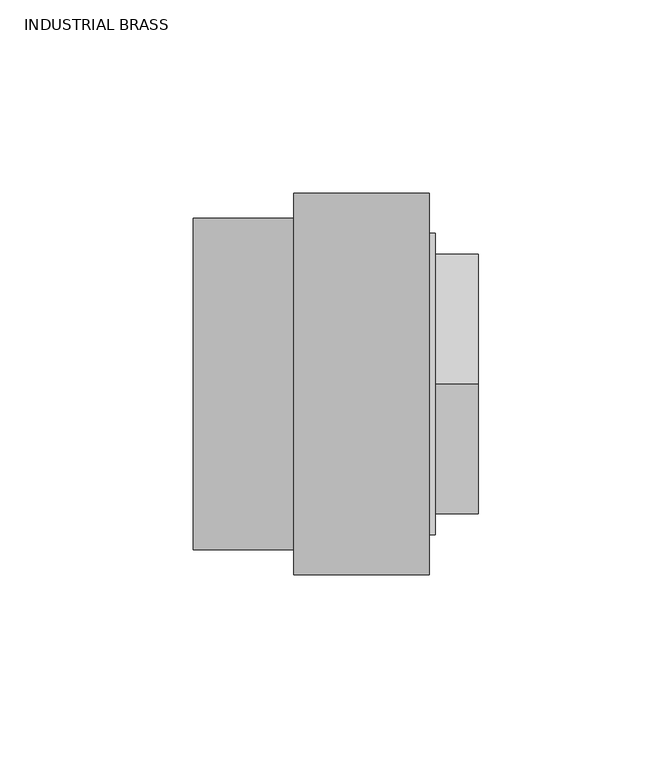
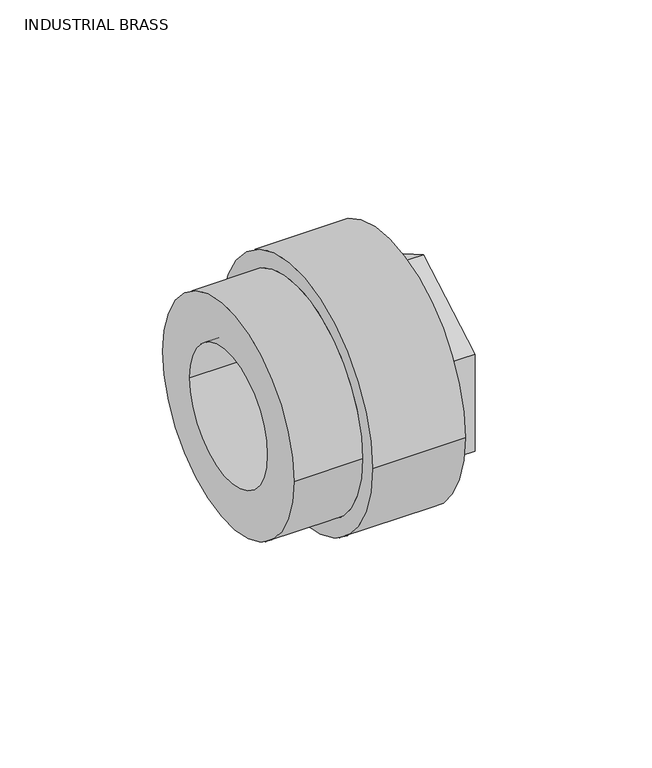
"""IFC4 building model written with IfcOpenShell, lengths in millimetres: pipe fitting geometry, Aquatherm - Flow Meter Well : INDUSTRIAL BRASS."""

import ifcopenshell
import ifcopenshell.guid

model = None  # the IFC model being written
_history = None  # IfcOwnerHistory: only IFC2X3 demands one
_inside = {}  # id of a spatial element -> (the spatial element, [elements in it])
_under = {}  # id of a project, library or spatial element -> (it, [spatial elements below it])
_declared = {}  # id of a project -> (the project, [libraries it declares])
_typed = {}  # id of a type object -> (the type object, [elements of that type])
_made_of = {}  # id of a material, layer set ... -> (it, [elements and type objects made of it])


def new_model(schema):
    """Start an empty IFC model of exactly this schema.

    Asked for "IFC4X3", IfcOpenShell would pick the latest addendum, in which some entities
    have other attributes; the version numbers below select the first issue.
    IFC2X3 requires an IfcOwnerHistory on every rooted entity: one is made here for all.
    """
    global model, _history
    if schema == "IFC4X3":
        model = ifcopenshell.file(schema_version=(4, 3, 0, 0))
    else:
        model = ifcopenshell.file(schema=schema)
    _inside.clear()
    _under.clear()
    _declared.clear()
    _typed.clear()
    _made_of.clear()
    _history = None
    if model.schema == "IFC2X3":
        org = make("IfcOrganization", Name="unknown")
        user = make(
            "IfcPersonAndOrganization",
            ThePerson=make("IfcPerson", FamilyName="unknown"),
            TheOrganization=org,
        )
        app = make(
            "IfcApplication",
            ApplicationDeveloper=org,
            Version="unknown",
            ApplicationFullName="unknown",
            ApplicationIdentifier="unknown",
        )
        _history = make(
            "IfcOwnerHistory",
            OwningUser=user,
            OwningApplication=app,
            ChangeAction="ADDED",
            CreationDate=0,
        )
    return model


def make(cls, **values):
    """One entity of the class cls with the attributes given. An attribute that is None is left unset."""
    return model.create_entity(
        cls, **{name: value for name, value in values.items() if value is not None}
    )


def rooted(cls, **values):
    """An entity with a GlobalId (a new one), such as an element, a storey or a relation."""
    return make(cls, GlobalId=ifcopenshell.guid.new(), OwnerHistory=_history, **values)


def si_unit(unit_type, name, prefix=None):
    """IfcSIUnit, for example si_unit("LENGTHUNIT", "METRE", prefix="MILLI")."""
    return make("IfcSIUnit", UnitType=unit_type, Prefix=prefix, Name=name)


def assignment(units):
    """IfcUnitAssignment: the units of a project."""
    return None if units is None else make("IfcUnitAssignment", Units=units)


def point(xyz):
    """IfcCartesianPoint."""
    return None if xyz is None else make("IfcCartesianPoint", Coordinates=xyz)


def direction(xyz):
    """IfcDirection."""
    return None if xyz is None else make("IfcDirection", DirectionRatios=xyz)


def frame(location, z_axis=None, x_axis=None):
    """IfcAxis2Placement3D, a coordinate frame: its origin and axes. An axis left out is left unset."""
    return make(
        "IfcAxis2Placement3D",
        Location=point(location),
        Axis=direction(z_axis),
        RefDirection=direction(x_axis),
    )


def origin():
    """The frame at (0, 0, 0) with its axes left unset."""
    return frame((0.0, 0.0, 0.0))


def place(relative_to, where):
    """IfcLocalPlacement: puts the frame where relative to a parent placement (None: the world)."""
    return make(
        "IfcLocalPlacement", PlacementRelTo=relative_to, RelativePlacement=where
    )


def context(
    kind, dimensions, precision=None, world=None, true_north=None, identifier=None
):
    """IfcGeometricRepresentationContext, for example the 3D "Model" context."""
    return make(
        "IfcGeometricRepresentationContext",
        ContextIdentifier=identifier,
        ContextType=kind,
        CoordinateSpaceDimension=dimensions,
        Precision=precision,
        WorldCoordinateSystem=world,
        TrueNorth=true_north,
    )


def project(units=None, contexts=None):
    """IfcProject with its units and contexts."""
    return rooted(
        "IfcProject",
        Name="project",
        RepresentationContexts=contexts,
        UnitsInContext=assignment(units),
    )


def spatial(cls, under=None, at=None, **own):
    """A site, building, storey or space (cls), placed at a placement, below another one or the project."""
    s = rooted(cls, ObjectPlacement=at, **own)
    if under is not None:
        _under.setdefault(under.id(), (under, []))[1].append(s)
    return s


def polyline(points):
    """IfcPolyline through the points."""
    return make("IfcPolyline", Points=[point(p) for p in points])


def circle_curve(where, radius):
    """IfcCircle in the frame where."""
    return make("IfcCircle", Position=where, Radius=radius)


def shape(context_of_items, identifier, shape_type, items):
    """IfcShapeRepresentation: the items that make up one representation, for example the "Body"."""
    return make(
        "IfcShapeRepresentation",
        ContextOfItems=context_of_items,
        RepresentationIdentifier=identifier,
        RepresentationType=shape_type,
        Items=items,
    )


def source(mapping_origin, context_of_items, identifier, shape_type, items):
    """IfcRepresentationMap: a shape defined once, which mapped items show again and again."""
    return make(
        "IfcRepresentationMap",
        MappingOrigin=mapping_origin,
        MappedRepresentation=shape(context_of_items, identifier, shape_type, items),
    )


def transform(
    local_origin,
    x_axis=None,
    y_axis=None,
    z_axis=None,
    scale=None,
    scale2=None,
    scale3=None,
    uniform=True,
):
    """IfcCartesianTransformationOperator3D, or its non-uniform kind. x_axis, y_axis, z_axis: its Axis1, 2, 3."""
    if uniform:
        return make(
            "IfcCartesianTransformationOperator3D",
            Axis1=direction(x_axis),
            Axis2=direction(y_axis),
            LocalOrigin=point(local_origin),
            Scale=scale,
            Axis3=direction(z_axis),
        )
    return make(
        "IfcCartesianTransformationOperator3DnonUniform",
        Axis1=direction(x_axis),
        Axis2=direction(y_axis),
        LocalOrigin=point(local_origin),
        Scale=scale,
        Axis3=direction(z_axis),
        Scale2=scale2,
        Scale3=scale3,
    )


def mapped(mapping_source, mapping_target):
    """IfcMappedItem: shows the shape of a source again, moved by a transform."""
    return make(
        "IfcMappedItem", MappingSource=mapping_source, MappingTarget=mapping_target
    )


def made_of(thing, what):
    """Note that an element or type object is made of a material, layer set ...; save() writes the relation."""
    if what is not None:
        _made_of.setdefault(what.id(), (what, []))[1].append(thing)
    return thing


def element(
    cls,
    number,
    at=None,
    inside=None,
    cuts=None,
    type_object=None,
    material=None,
    context=None,
    identifier="Body",
    shape_type=None,
    held_by="IfcProductDefinitionShape",
    body=None,
    shapes=None,
    **own,
):
    """One element of the class cls, such as IfcWall. Its Tag is "e" and its number.

    at: its placement. inside: the storey or other place that contains it. cuts: it is an
    opening in that element (IfcRelVoidsElement). A single representation is given by context,
    identifier, shape_type and body (its items); several are given by shapes. held_by: the class
    of the entity that holds the representations. save() writes the other relations.
    """
    e = rooted(cls, Tag="e%d" % number, ObjectPlacement=at, **own)
    if body is not None:
        shapes = [shape(context, identifier, shape_type, body)]
    if shapes is not None:
        e.Representation = make(held_by, Representations=shapes)
    if inside is not None:
        _inside.setdefault(inside.id(), (inside, []))[1].append(e)
    if cuts is not None:
        rooted(
            "IfcRelVoidsElement", RelatingBuildingElement=cuts, RelatedOpeningElement=e
        )
    if type_object is not None:
        _typed.setdefault(type_object.id(), (type_object, []))[1].append(e)
    return made_of(e, material)


def aggregate(whole, parts):
    """IfcRelAggregates: a whole, such as a stair, and the parts it consists of."""
    return rooted("IfcRelAggregates", RelatingObject=whole, RelatedObjects=parts)


def save(model, path):
    """Write the relations noted so far, then the file.

    IfcRelAggregates (storeys below a building ...), IfcRelContainedInSpatialStructure (elements
    in a storey), IfcRelDefinesByType, IfcRelAssociatesMaterial and IfcRelDeclares: one each for
    every whole, place, type object, material and project.
    """
    for whole, parts in _under.values():
        aggregate(whole, parts)
    for where, things in _inside.values():
        rooted(
            "IfcRelContainedInSpatialStructure",
            RelatedElements=things,
            RelatingStructure=where,
        )
    for kind, things in _typed.values():
        rooted("IfcRelDefinesByType", RelatedObjects=things, RelatingType=kind)
    for what, things in _made_of.values():
        rooted("IfcRelAssociatesMaterial", RelatedObjects=things, RelatingMaterial=what)
    for by, libraries in _declared.values():
        rooted("IfcRelDeclares", RelatingContext=by, RelatedDefinitions=libraries)
    model.write(path)


def plane_surface(at):
    """IfcPlane: the flat surface through the origin of the frame at, square to its z axis."""
    return make("IfcPlane", Position=at)


def cylinder_surface(at, radius):
    """IfcCylindricalSurface: all points at the distance radius from the z axis of the frame at."""
    return make("IfcCylindricalSurface", Position=at, Radius=radius)


def revolved_surface(curve, axis_point, axis_direction):
    """IfcSurfaceOfRevolution: the curve turned about the line through axis_point along axis_direction."""
    return make(
        "IfcSurfaceOfRevolution",
        SweptCurve=make("IfcArbitraryOpenProfileDef", ProfileType="CURVE", Curve=curve),
        AxisPosition=make("IfcAxis1Placement", Location=point(axis_point), Axis=direction(axis_direction)),
    )


def advanced_brep(points, edges, surfaces, faces):
    """IfcAdvancedBrep: a solid bounded by faces that lie on surfaces and meet in shared edges.

    An edge is (start, end): straight between two places in points (the first is 0);
    or (start, end, curve); or (start, end, curve, False) where it runs against its curve.
    A face is (place in surfaces, loops), or (place, loops, False) where it looks against
    its surface's normal. A loop lists edges by number (the first is 1), with a minus sign
    where the edge is run from its end to its start. The first loop is the outer one.
    """
    corners = [point(p) for p in points]
    vertices = [make("IfcVertexPoint", VertexGeometry=c) for c in corners]
    made = []
    for start, end, *more in edges:
        made.append(
            make(
                "IfcEdgeCurve",
                EdgeStart=vertices[start],
                EdgeEnd=vertices[end],
                EdgeGeometry=more[0] if more else make("IfcPolyline", Points=[corners[start], corners[end]]),
                SameSense=more[1] if len(more) > 1 else True,
            )
        )
    hull = []
    for where, loops, *sense in faces:
        bounds = []
        for j, loop in enumerate(loops):
            ring = [make("IfcOrientedEdge", EdgeElement=made[abs(k) - 1], Orientation=k > 0) for k in loop]
            bounds.append(
                make(
                    "IfcFaceOuterBound" if j == 0 else "IfcFaceBound",
                    Bound=make("IfcEdgeLoop", EdgeList=ring),
                    Orientation=True,
                )
            )
        hull.append(make("IfcAdvancedFace", Bounds=bounds, FaceSurface=surfaces[where], SameSense=sense[0] if sense else True))
    return make("IfcAdvancedBrep", Outer=make("IfcClosedShell", CfsFaces=hull))


def industrial_brass_2da65b36(model_context):
    return source(origin(), model_context, "Body", "AdvancedBrep", [
        advanced_brep(
        [(36.1315, 28.575, 0.0), (36.1315, -28.575, 0.0), (57.3643125, -28.575, 0.0), (57.3643125, 28.575, 0.0), (36.1315, 29.36875, 0.0), (36.1315, -29.36875, 0.0), (32.9565, 29.36875, 0.0), (32.9565, -29.36875, 0.0), (32.9565, 25.4, 0.0), (32.9565, -25.4, 0.0), (29.7815, 25.4, 0.0), (29.7815, -25.4, 0.0), (29.7815, 40.64, 0.0), (29.7815, -40.64, 0.0), (47.244, 40.64, 0.0), (47.244, -40.64, 0.0), (59.944, 29.36875, 0.0), (59.944, -29.36875, 0.0), (59.944, -33.528, 0.0), (59.944, -33.528, -19.3573998), (59.944, 0.0, -38.7147997), (59.944, 33.528, -19.3573998), (59.944, 33.528, 0.0), (59.944, 33.528, 19.3573998), (59.944, 0.0, 38.7147997), (59.944, -33.528, 19.3573998), (47.244, 38.989, 0.0), (47.244, -38.989, 0.0), (48.8315, 38.989, 0.0), (48.8315, -38.989, 0.0), (48.8315, 0.0, -38.7147997), (48.8315, -33.528, -19.3573998), (48.8315, -33.528, 19.3573998), (48.8315, 0.0, 38.7147997), (48.8315, 33.528, 19.3573998), (48.8315, 33.528, -19.3573998)],
        [
            (0, 1, circle_curve(frame((36.1315, 0.0, 0.0), z_axis=(-1.0, 0.0, 0.0), x_axis=(0.0, -1.0, 0.0)), 28.575)),
            (1, 2),
            (2, 3, circle_curve(frame((57.3643125, 0.0, 0.0), z_axis=(1.0, 0.0, 0.0), x_axis=(0.0, -1.0, 0.0)), 28.575)),
            (3, 0),
            (1, 0, circle_curve(frame((36.1315, 0.0, 0.0), z_axis=(-1.0, 0.0, 0.0), x_axis=(0.0, -1.0, 0.0)), 28.575)),
            (3, 2, circle_curve(frame((57.3643125, 0.0, 0.0), z_axis=(1.0, 0.0, 0.0), x_axis=(0.0, -1.0, 0.0)), 28.575)),
            (0, 4),
            (4, 5, circle_curve(frame((36.1315, 0.0, 0.0), z_axis=(-1.0, 0.0, 0.0), x_axis=(0.0, -1.0, 0.0)), 29.36875)),
            (5, 1),
            (5, 4, circle_curve(frame((36.1315, 0.0, 0.0), z_axis=(-1.0, 0.0, 0.0), x_axis=(0.0, -1.0, 0.0)), 29.36875)),
            (4, 6),
            (6, 7, circle_curve(frame((32.9565, 0.0, 0.0), z_axis=(-1.0, 0.0, 0.0), x_axis=(0.0, -1.0, 0.0)), 29.36875)),
            (7, 5),
            (7, 6, circle_curve(frame((32.9565, 0.0, 0.0), z_axis=(-1.0, 0.0, 0.0), x_axis=(0.0, -1.0, 0.0)), 29.36875)),
            (6, 8),
            (8, 9, circle_curve(frame((32.9565, 0.0, 0.0), z_axis=(-1.0, 0.0, 0.0), x_axis=(0.0, -1.0, 0.0)), 25.4)),
            (9, 7),
            (9, 8, circle_curve(frame((32.9565, 0.0, 0.0), z_axis=(-1.0, 0.0, 0.0), x_axis=(0.0, -1.0, 0.0)), 25.4)),
            (8, 10),
            (10, 11, circle_curve(frame((29.7815, 0.0, 0.0), z_axis=(-1.0, 0.0, 0.0), x_axis=(0.0, -1.0, 0.0)), 25.4)),
            (11, 9),
            (11, 10, circle_curve(frame((29.7815, 0.0, 0.0), z_axis=(-1.0, 0.0, 0.0), x_axis=(0.0, -1.0, 0.0)), 25.4)),
            (10, 12),
            (12, 13, circle_curve(frame((29.7815, 0.0, 0.0), z_axis=(-1.0, 0.0, 0.0), x_axis=(0.0, -1.0, 0.0)), 40.64)),
            (13, 11),
            (13, 12, circle_curve(frame((29.7815, 0.0, 0.0), z_axis=(-1.0, 0.0, 0.0), x_axis=(0.0, -1.0, 0.0)), 40.64)),
            (12, 14),
            (14, 15, circle_curve(frame((47.244, 0.0, 0.0), z_axis=(-1.0, 0.0, 0.0), x_axis=(0.0, -1.0, 0.0)), 40.64)),
            (15, 13),
            (15, 14, circle_curve(frame((47.244, 0.0, 0.0), z_axis=(-1.0, 0.0, 0.0), x_axis=(0.0, -1.0, 0.0)), 40.64)),
            (16, 17, circle_curve(frame((59.944, 0.0, 0.0), z_axis=(-1.0, 0.0, 0.0), x_axis=(0.0, -1.0, 0.0)), 29.36875)),
            (17, 18),
            (18, 19),
            (19, 20),
            (20, 21),
            (21, 22),
            (22, 16),
            (17, 16, circle_curve(frame((59.944, 0.0, 0.0), z_axis=(-1.0, 0.0, 0.0), x_axis=(0.0, -1.0, 0.0)), 29.36875)),
            (22, 23),
            (23, 24),
            (24, 25),
            (25, 18),
            (2, 17),
            (16, 3),
            (14, 26),
            (26, 27, circle_curve(frame((47.244, 0.0, 0.0), z_axis=(-1.0, 0.0, 0.0), x_axis=(0.0, -1.0, 0.0)), 38.989)),
            (27, 15),
            (27, 26, circle_curve(frame((47.244, 0.0, 0.0), z_axis=(-1.0, 0.0, 0.0), x_axis=(0.0, -1.0, 0.0)), 38.989)),
            (26, 28),
            (28, 29, circle_curve(frame((48.8315, 0.0, 0.0), z_axis=(-1.0, 0.0, 0.0), x_axis=(0.0, -1.0, 0.0)), 38.989)),
            (29, 27),
            (29, 28, circle_curve(frame((48.8315, 0.0, 0.0), z_axis=(-1.0, 0.0, 0.0), x_axis=(0.0, -1.0, 0.0)), 38.989)),
            (30, 31),
            (31, 32),
            (32, 33),
            (33, 34),
            (34, 35),
            (35, 30),
            (35, 21),
            (20, 30),
            (34, 23),
            (33, 24),
            (32, 25),
            (31, 19),
        ],
        [
            revolved_surface(polyline([(57.3643125, -28.575, 0.0), (36.1315, -28.575, 0.0)]), (61.7772251, 0.0, 0.0), (1.0, 0.0, 0.0)),
            plane_surface(frame((36.1315, 0.0, 0.0), z_axis=(-1.0, 0.0, 0.0), x_axis=(0.0, -1.0, 0.0))),
            revolved_surface(polyline([(36.1315, -29.36875, 0.0), (32.9565, -29.36875, 0.0)]), (61.7772251, 0.0, 0.0), (1.0, 0.0, 0.0)),
            plane_surface(frame((32.9565, 0.0, 0.0), z_axis=(1.0, 0.0, 0.0), x_axis=(0.0, -1.0, 0.0))),
            revolved_surface(polyline([(32.9565, -25.4, 0.0), (29.7815, -25.4, 0.0)]), (61.7772251, 0.0, 0.0), (1.0, 0.0, 0.0)),
            plane_surface(frame((29.7815, 0.0, 0.0), z_axis=(-1.0, 0.0, 0.0), x_axis=(0.0, -1.0, 0.0))),
            cylinder_surface(frame((61.7772251, 0.0, 0.0), z_axis=(1.0, 0.0, 0.0), x_axis=(0.0, -1.0, 0.0)), 40.64),
            plane_surface(frame((59.944, 0.0, 0.0), z_axis=(1.0, 0.0, 0.0), x_axis=(0.0, -1.0, 0.0))),
            revolved_surface(polyline([(59.944, -29.36875, 0.0), (57.3643125, -28.575, 0.0)]), (61.7772251, 0.0, 0.0), (1.0, 0.0, 0.0)),
            plane_surface(frame((47.244, 0.0, 0.0), z_axis=(1.0, 0.0, 0.0), x_axis=(0.0, -1.0, 0.0))),
            cylinder_surface(frame((61.7772251, 0.0, 0.0), z_axis=(1.0, 0.0, 0.0), x_axis=(0.0, -1.0, 0.0)), 38.989),
            plane_surface(frame((48.8315, 33.528, -19.3573998), z_axis=(1.0, 0.0, 0.0), x_axis=(0.0, 0.8660254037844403, 0.49999999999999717))),
            plane_surface(frame((48.8315, 0.0, -38.7147997), z_axis=(0.0, 0.49999999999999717, -0.8660254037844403), x_axis=(1.0, 0.0, 0.0))),
            plane_surface(frame((48.8315, 33.528, -19.3573998), z_axis=(0.0, 1.0, 0.0), x_axis=(1.0, 0.0, 0.0))),
            plane_surface(frame((48.8315, 33.528, 19.3573998), z_axis=(0.0, 0.5000000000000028, 0.8660254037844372), x_axis=(1.0, 0.0, 0.0))),
            plane_surface(frame((48.8315, 0.0, 38.7147997), z_axis=(0.0, -0.49999999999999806, 0.8660254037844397), x_axis=(1.0, 0.0, 0.0))),
            plane_surface(frame((48.8315, -33.528, 19.3573998), z_axis=(0.0, -1.0, 0.0), x_axis=(1.0, 0.0, 0.0))),
            plane_surface(frame((48.8315, -33.528, -19.3573998), z_axis=(0.0, -0.5000000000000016, -0.8660254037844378), x_axis=(1.0, 0.0, 0.0))),
        ],
        [
            (0, [[1, 2, 3, 4]]),
            (0, [[-2, 5, -4, 6]]),
            (1, [[-1, 7, 8, 9]]),
            (1, [[-5, -9, 10, -7]]),
            (2, [[-8, 11, 12, 13]]),
            (2, [[-10, -13, 14, -11]]),
            (3, [[-12, 15, 16, 17]]),
            (3, [[-14, -17, 18, -15]]),
            (4, [[-16, 19, 20, 21]]),
            (4, [[-18, -21, 22, -19]]),
            (5, [[-20, 23, 24, 25]]),
            (5, [[-22, -25, 26, -23]]),
            (6, [[-24, 27, 28, 29]]),
            (6, [[-26, -29, 30, -27]]),
            (7, [[31, 32, 33, 34, 35, 36, 37]]),
            (7, [[38, -37, 39, 40, 41, 42, -32]]),
            (8, [[-3, 43, -31, 44]]),
            (8, [[-6, -44, -38, -43]]),
            (9, [[-28, 45, 46, 47]]),
            (9, [[-30, -47, 48, -45]]),
            (10, [[-46, 49, 50, 51]]),
            (10, [[-48, -51, 52, -49]]),
            (11, [[-50, -52], [53, 54, 55, 56, 57, 58]]),
            (12, [[-58, 59, -35, 60]]),
            (13, [[-57, 61, -39, -36, -59]]),
            (14, [[-56, 62, -40, -61]]),
            (15, [[-55, 63, -41, -62]]),
            (16, [[-54, 64, -33, -42, -63]]),
            (17, [[-53, -60, -34, -64]]),
        ],
    ),
        advanced_brep(
        [(-13.7297297, 42.8625, 0.0), (-13.7297297, -42.8625, 0.0), (-13.7297297, 25.4, 0.0), (-13.7297297, -25.4, 0.0), (29.7815, 40.64, 0.0), (29.7815, -40.64, 0.0), (29.7815, 25.4, 0.0), (29.7815, -25.4, 0.0), (0.0, 42.8625, 0.0), (12.192, 42.8625, 0.0), (12.192, -42.8625, 0.0), (0.0, -42.8625, 0.0), (47.244, 49.276, 0.0), (47.244, -49.276, 0.0), (47.244, 40.64, 0.0), (47.244, -40.64, 0.0), (12.192, 49.276, 0.0), (12.192, -49.276, 0.0)],
        [
            (0, 1, circle_curve(frame((-13.7297297, 0.0, 0.0), z_axis=(-1.0, 0.0, 0.0), x_axis=(0.0, -1.0, 0.0)), 42.8625)),
            (1, 0, circle_curve(frame((-13.7297297, 0.0, 0.0), z_axis=(-1.0, 0.0, 0.0), x_axis=(0.0, -1.0, 0.0)), 42.8625)),
            (2, 3, circle_curve(frame((-13.7297297, 0.0, 0.0), z_axis=(1.0, 0.0, 0.0), x_axis=(0.0, -1.0, 0.0)), 25.4)),
            (3, 2, circle_curve(frame((-13.7297297, 0.0, 0.0), z_axis=(1.0, 0.0, 0.0), x_axis=(0.0, -1.0, 0.0)), 25.4)),
            (4, 5, circle_curve(frame((29.7815, 0.0, 0.0), z_axis=(1.0, 0.0, 0.0), x_axis=(0.0, -1.0, 0.0)), 40.64)),
            (5, 4, circle_curve(frame((29.7815, 0.0, 0.0), z_axis=(1.0, 0.0, 0.0), x_axis=(0.0, -1.0, 0.0)), 40.64)),
            (6, 7, circle_curve(frame((29.7815, 0.0, 0.0), z_axis=(-1.0, 0.0, 0.0), x_axis=(0.0, -1.0, 0.0)), 25.4)),
            (7, 6, circle_curve(frame((29.7815, 0.0, 0.0), z_axis=(-1.0, 0.0, 0.0), x_axis=(0.0, -1.0, 0.0)), 25.4)),
            (2, 6),
            (7, 3),
            (0, 8),
            (8, 9),
            (9, 10, circle_curve(frame((12.192, 0.0, 0.0), z_axis=(-1.0, 0.0, 0.0), x_axis=(0.0, -1.0, 0.0)), 42.8625)),
            (10, 11),
            (11, 1),
            (10, 9, circle_curve(frame((12.192, 0.0, 0.0), z_axis=(-1.0, 0.0, 0.0), x_axis=(0.0, -1.0, 0.0)), 42.8625)),
            (12, 13, circle_curve(frame((47.244, 0.0, 0.0), z_axis=(1.0, 0.0, 0.0), x_axis=(0.0, -1.0, 0.0)), 49.276)),
            (13, 12, circle_curve(frame((47.244, 0.0, 0.0), z_axis=(1.0, 0.0, 0.0), x_axis=(0.0, -1.0, 0.0)), 49.276)),
            (14, 15, circle_curve(frame((47.244, 0.0, 0.0), z_axis=(-1.0, 0.0, 0.0), x_axis=(0.0, -1.0, 0.0)), 40.64)),
            (15, 14, circle_curve(frame((47.244, 0.0, 0.0), z_axis=(-1.0, 0.0, 0.0), x_axis=(0.0, -1.0, 0.0)), 40.64)),
            (16, 17, circle_curve(frame((12.192, 0.0, 0.0), z_axis=(-1.0, 0.0, 0.0), x_axis=(0.0, -1.0, 0.0)), 49.276)),
            (17, 16, circle_curve(frame((12.192, 0.0, 0.0), z_axis=(-1.0, 0.0, 0.0), x_axis=(0.0, -1.0, 0.0)), 49.276)),
            (15, 5),
            (4, 14),
            (13, 17),
            (16, 12),
        ],
        [
            plane_surface(frame((-13.7297297, -25.4, 0.0), z_axis=(-1.0, 0.0, 0.0), x_axis=(0.0, 0.0, -1.0))),
            plane_surface(frame((29.7815, -25.4, 0.0), z_axis=(1.0, 0.0, 0.0), x_axis=(0.0, 0.0, 1.0))),
            revolved_surface(polyline([(29.7815, -25.4, 0.0), (-13.7297297, -25.4, 0.0)]), (29.7815, 0.0, 0.0), (1.0, 0.0, 0.0)),
            cylinder_surface(frame((0.0, 0.0, 0.0), z_axis=(-1.0, 0.0, 0.0), x_axis=(0.0, -1.0, 0.0)), 42.8625),
            plane_surface(frame((47.244, -40.64, 0.0), z_axis=(1.0, 0.0, 0.0), x_axis=(0.0, 0.0, 1.0))),
            plane_surface(frame((12.192, -40.64, 0.0), z_axis=(-1.0, 0.0, 0.0), x_axis=(0.0, 0.0, -1.0))),
            revolved_surface(polyline([(47.244, -40.64, 0.0), (29.7815, -40.64, 0.0)]), (47.244, 0.0, 0.0), (1.0, 0.0, 0.0)),
            cylinder_surface(frame((0.0, 0.0, 0.0), z_axis=(-1.0, 0.0, 0.0), x_axis=(0.0, -1.0, 0.0)), 49.276),
        ],
        [
            (0, [[1, 2], [3, 4]]),
            (1, [[5, 6], [7, 8]]),
            (2, [[-3, 9, -8, 10]]),
            (2, [[-4, -10, -7, -9]]),
            (3, [[-1, 11, 12, 13, 14, 15]]),
            (3, [[-2, -15, -14, 16, -12, -11]]),
            (4, [[17, 18], [19, 20]]),
            (5, [[21, 22], [-13, -16]]),
            (6, [[-20, 23, -5, 24]]),
            (6, [[-19, -24, -6, -23]]),
            (7, [[-18, 25, -21, 26]]),
            (7, [[-17, -26, -22, -25]]),
        ],
    ),
    ])


if __name__ == "__main__":
    model = new_model("IFC4")
    model_context = context("Model", 3, world=origin())
    ifc_project = project(units=[si_unit("LENGTHUNIT", "METRE", prefix="MILLI")], contexts=[model_context])
    site = spatial("IfcSite", under=ifc_project)
    building = spatial("IfcBuilding", under=site)
    placement = place(None, origin())
    industrial_brass_shape = industrial_brass_2da65b36(model_context)
    element("IfcPipeFitting", 1, ObjectType="Aquatherm - Flow Meter Well : INDUSTRIAL BRASS", at=placement, inside=building, context=model_context, shape_type="MappedRepresentation", body=[
        mapped(industrial_brass_shape, transform((0.0, 0.0, 0.0), x_axis=(1.0, 0.0, 0.0), y_axis=(0.0, 1.0, 0.0), z_axis=(0.0, 0.0, 1.0))),
    ])
    save(model, "model.ifc")
